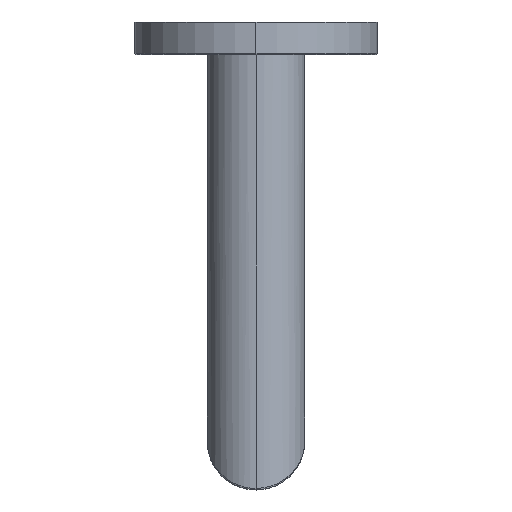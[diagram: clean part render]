
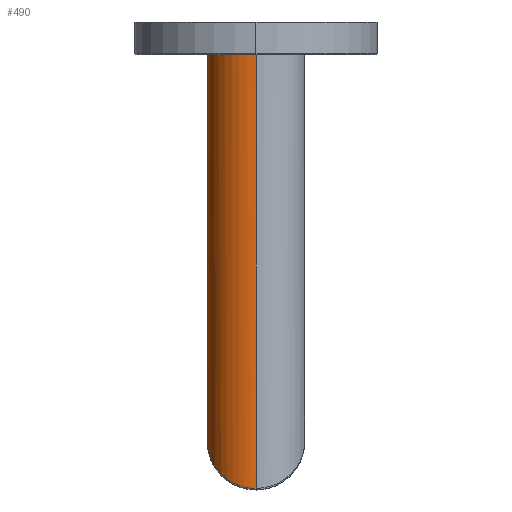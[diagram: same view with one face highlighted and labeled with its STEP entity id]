
A CAD part, left-side view. The second image highlights one B-rep face of the part: STEP entity #490.
In plain terms, the highlighted cylindrical face has radius 9 mm (diameter 18 mm), a partial arc.
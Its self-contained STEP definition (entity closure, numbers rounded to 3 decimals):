
#1=CARTESIAN_POINT('',(-200.,0.,
-8.7));
#2=CARTESIAN_POINT('',(-200.,0.193,-8.7));
#3=CARTESIAN_POINT('',(-199.988,0.596,-8.688));
#4=CARTESIAN_POINT('',(-199.922,1.245,-8.625));
#5=CARTESIAN_POINT('',(-199.796,1.952,-8.503));
#6=CARTESIAN_POINT('',(-199.597,2.702,-8.311));
#7=CARTESIAN_POINT('',(-199.312,3.486,-8.035));
#8=CARTESIAN_POINT('',(-198.925,4.299,-7.661));
#9=CARTESIAN_POINT('',(-198.429,5.112,-7.181));
#10=CARTESIAN_POINT('',(-197.813,5.912,-6.586));
#11=CARTESIAN_POINT('',(-197.066,6.679,-5.864));
#12=CARTESIAN_POINT('',(-196.179,7.392,-5.007));
#13=CARTESIAN_POINT('',(-195.136,8.026,-3.999));
#14=CARTESIAN_POINT('',(-193.943,8.541,-2.845));
#15=CARTESIAN_POINT('',(-192.578,8.902,-1.525));
#16=CARTESIAN_POINT('',(-191.543,9.,-0.525));
#17=CARTESIAN_POINT('',(-191.,9.,0.));
#19=CARTESIAN_POINT('',(-182.,0.,9.3));
#20=CARTESIAN_POINT('',(-182.,0.181,9.3));
#21=CARTESIAN_POINT('',(-182.011,0.562,9.289));
#22=CARTESIAN_POINT('',(-182.07,1.18,9.228));
#23=CARTESIAN_POINT('',(-182.183,1.85,9.111));
#24=CARTESIAN_POINT('',(-182.362,2.566,8.926));
#25=CARTESIAN_POINT('',(-182.621,3.32,8.658));
#26=CARTESIAN_POINT('',(-182.972,4.099,8.296));
#27=CARTESIAN_POINT('',(-183.425,4.89,7.828));
#28=CARTESIAN_POINT('',(-183.99,5.673,7.244));
#29=CARTESIAN_POINT('',(-184.678,6.435,6.533));
#30=CARTESIAN_POINT('',(-185.498,7.152,5.685));
#31=CARTESIAN_POINT('',(-186.456,7.8,4.696));
#32=CARTESIAN_POINT('',(-187.585,8.36,3.529));
#33=CARTESIAN_POINT('',(-188.8,8.758,2.273));
#34=CARTESIAN_POINT('',(-189.999,8.968,1.034));
#35=CARTESIAN_POINT('',(-190.681,9.,0.329));
#36=CARTESIAN_POINT('',(-191.,9.,0.));
#38=CARTESIAN_POINT('',(-191.,0.,71.));
#39=DIRECTION('',(0.,0.,-1.));
#40=DIRECTION('',(-1.,0.,0.));
#41=AXIS2_PLACEMENT_3D('',#38,#39,#40);
#43=DIRECTION('',(0.,0.,-1.));
#44=VECTOR('',#43,79.7);
#45=CARTESIAN_POINT('',(-200.,0.,71.));
#46=LINE('',#45,#44);
#137=DIRECTION('',(0.,0.,-1.));
#138=VECTOR('',#137,61.7);
#139=CARTESIAN_POINT('',(-182.,0.,71.));
#140=LINE('',#139,#138);
#433=CARTESIAN_POINT('',(-200.,0.,71.));
#434=CARTESIAN_POINT('',(-182.,0.,71.));
#435=VERTEX_POINT('',#433);
#436=VERTEX_POINT('',#434);
#461=CARTESIAN_POINT('',(-182.,0.,9.3));
#462=VERTEX_POINT('',#461);
#465=VERTEX_POINT('',#1);
#466=VERTEX_POINT('',#17);
#473=CARTESIAN_POINT('',(-191.,0.,71.));
#474=DIRECTION('',(0.,0.,-1.));
#475=DIRECTION('',(-1.,0.,0.));
#476=AXIS2_PLACEMENT_3D('',#473,#474,#475);
#477=CYLINDRICAL_SURFACE('',#476,9.);
#479=ORIENTED_EDGE('',*,*,#478,.T.);
#481=ORIENTED_EDGE('',*,*,#480,.F.);
#483=ORIENTED_EDGE('',*,*,#482,.F.);
#485=ORIENTED_EDGE('',*,*,#484,.F.);
#487=ORIENTED_EDGE('',*,*,#486,.T.);
#488=EDGE_LOOP('',(#479,#481,#483,#485,#487));
#489=FACE_OUTER_BOUND('',#488,.F.);
#490=ADVANCED_FACE('',(#489),#477,.T.);
#18=B_SPLINE_CURVE_WITH_KNOTS('',3,(#1,#2,#3,#4,#5,#6,#7,#8,#9,#10,#11,#12,#13,
#14,#15,#16,#17),.UNSPECIFIED.,.F.,.F.,(4,1,1,1,1,1,1,1,1,1,1,1,1,1,4),(0.,
0.071,0.143,0.214,0.286,
0.357,0.429,0.5,0.571,0.643,
0.714,0.786,0.857,0.929,1.),
.UNSPECIFIED.);
#37=B_SPLINE_CURVE_WITH_KNOTS('',3,(#19,#20,#21,#22,#23,#24,#25,#26,#27,#28,#29,
#30,#31,#32,#33,#34,#35,#36),.UNSPECIFIED.,.F.,.F.,(4,1,1,1,1,1,1,1,1,1,1,1,1,1,
1,4),(0.,0.067,0.133,0.2,0.267,
0.333,0.4,0.467,0.533,0.6,
0.667,0.733,0.8,0.867,0.933,
1.),.UNSPECIFIED.);
#42=CIRCLE('',#41,9.);
#478=EDGE_CURVE('',#465,#466,#18,.T.);
#480=EDGE_CURVE('',#462,#466,#37,.T.);
#482=EDGE_CURVE('',#436,#462,#140,.T.);
#484=EDGE_CURVE('',#435,#436,#42,.T.);
#486=EDGE_CURVE('',#435,#465,#46,.T.);
